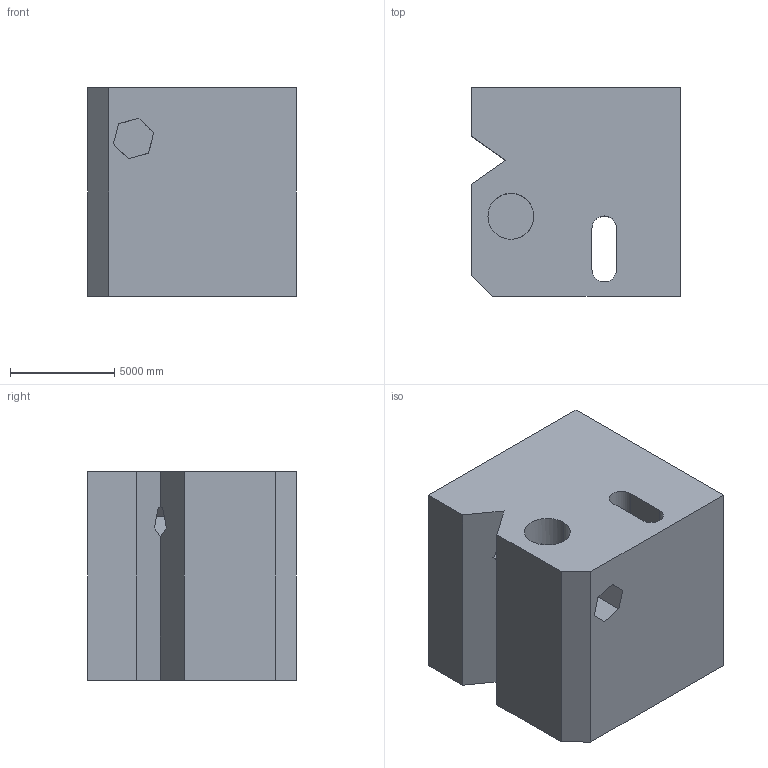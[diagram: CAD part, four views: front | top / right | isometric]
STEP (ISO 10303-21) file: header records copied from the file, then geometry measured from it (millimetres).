
FILE_DESCRIPTION (( 'STEP AP203' ), '1' );
FILE_NAME ('1788.STEP', '2022-08-26T14:11:21', ( 'user' ), ( '' ), 'SwSTEP 2.0', 'SolidWorks 2021', '' );
FILE_SCHEMA (( 'CONFIG_CONTROL_DESIGN' ));
Length unit declared in the file: centimetre
Products named in the file (1): 1788
Bounding box: 10000 x 10000 x 10000 mm (x, y, z)
Volume: 864125636737.6 mm3; surface area: 817299061.4 mm2
Topology: 1 solids, 1 shells, 45 faces, 123 edges, 82 vertices
Faces by surface type: plane 32, cylinder 13
Entity records: 1512 total; most frequent: CARTESIAN_POINT 287, ORIENTED_EDGE 246, DIRECTION 229, EDGE_CURVE 123, VECTOR 85, LINE 85, VERTEX_POINT 82, AXIS2_PLACEMENT_3D 72
